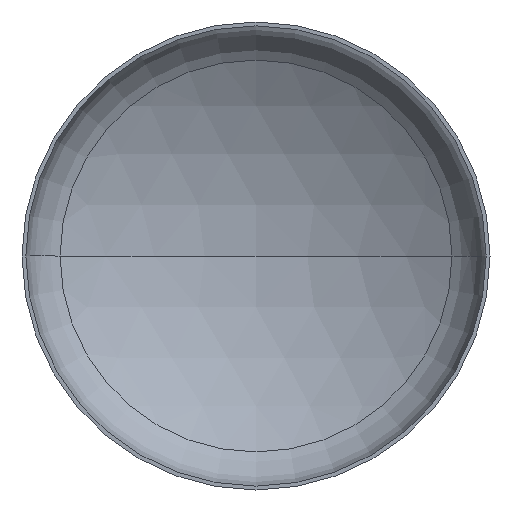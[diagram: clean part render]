
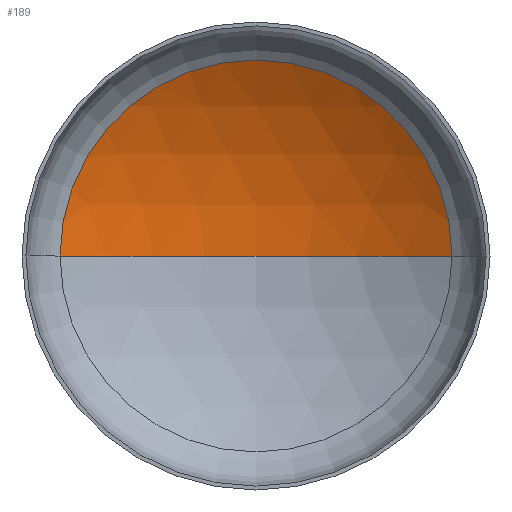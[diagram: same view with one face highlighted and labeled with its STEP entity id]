
A CAD part, front view. The second image highlights one B-rep face of the part: STEP entity #189.
In plain terms, the highlighted spherical face has radius 480 mm.
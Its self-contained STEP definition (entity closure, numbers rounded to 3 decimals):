
#7 = DIRECTION ( 'NONE',  ( 0., 0., -1. ) ) ;
#10 = EDGE_LOOP ( 'NONE', ( #107, #45, #268 ) ) ;
#12 = CARTESIAN_POINT ( 'NONE',  ( 0., -310.658, 0. ) ) ;
#36 = DIRECTION ( 'NONE',  ( -1., 0., 0. ) ) ;
#41 = VERTEX_POINT ( 'NONE', #303 ) ;
#45 = ORIENTED_EDGE ( 'NONE', *, *, #149, .T. ) ;
#62 = AXIS2_PLACEMENT_3D ( 'NONE', #296, #226, #293 ) ;
#63 = VERTEX_POINT ( 'NONE', #271 ) ;
#83 = AXIS2_PLACEMENT_3D ( 'NONE', #126, #395, #341 ) ;
#86 = AXIS2_PLACEMENT_3D ( 'NONE', #12, #7, #36 ) ;
#87 = VERTEX_POINT ( 'NONE', #247 ) ;
#89 = AXIS2_PLACEMENT_3D ( 'NONE', #212, #396, #359 ) ;
#107 = ORIENTED_EDGE ( 'NONE', *, *, #150, .F. ) ;
#126 = CARTESIAN_POINT ( 'NONE',  ( 0., -310.658, 0. ) ) ;
#147 = EDGE_CURVE ( 'NONE', #41, #63, #175, .T. ) ;
#149 = EDGE_CURVE ( 'NONE', #87, #41, #403, .T. ) ;
#150 = EDGE_CURVE ( 'NONE', #87, #63, #304, .T. ) ;
#175 = CIRCLE ( 'NONE', #89, 251.134 ) ;
#189 = ADVANCED_FACE ( 'NONE', ( #235 ), #227, .F. ) ;
#212 = CARTESIAN_POINT ( 'NONE',  ( 0., 98.404, 0. ) ) ;
#226 = DIRECTION ( 'NONE',  ( 0., 0., -1. ) ) ;
#227 = SPHERICAL_SURFACE ( 'NONE', #62, 480. ) ;
#235 = FACE_OUTER_BOUND ( 'NONE', #10, .T. ) ;
#247 = CARTESIAN_POINT ( 'NONE',  ( 0., 169.342, 0. ) ) ;
#268 = ORIENTED_EDGE ( 'NONE', *, *, #147, .T. ) ;
#271 = CARTESIAN_POINT ( 'NONE',  ( -251.134, 98.404, 0. ) ) ;
#293 = DIRECTION ( 'NONE',  ( -1., 0., 0. ) ) ;
#296 = CARTESIAN_POINT ( 'NONE',  ( 0., -310.658, 0. ) ) ;
#303 = CARTESIAN_POINT ( 'NONE',  ( 251.134, 98.404, 0. ) ) ;
#304 = CIRCLE ( 'NONE', #83, 480. ) ;
#341 = DIRECTION ( 'NONE',  ( 1., 0., 0. ) ) ;
#359 = DIRECTION ( 'NONE',  ( 1., 0., 0. ) ) ;
#395 = DIRECTION ( 'NONE',  ( 0., 0., 1. ) ) ;
#396 = DIRECTION ( 'NONE',  ( 0., -1., 0. ) ) ;
#403 = CIRCLE ( 'NONE', #86, 480. ) ;
